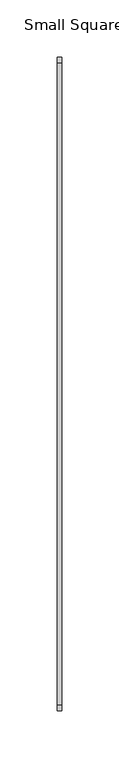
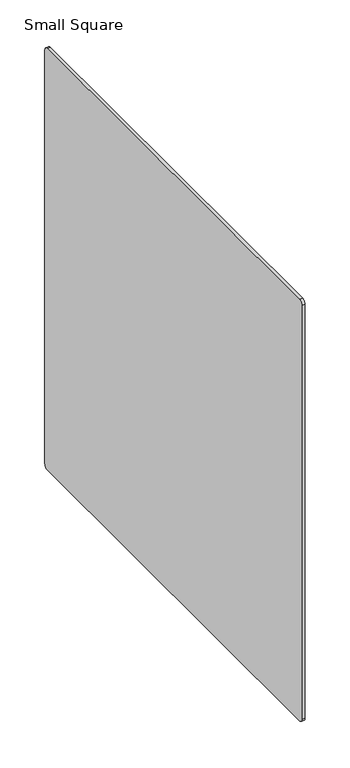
"""IFC4 building model written with IfcOpenShell, lengths in millimetres: furniture geometry, PolyVision_Accessory_Board_Motif : Small Square."""

from ifc_helpers import new_model, si_unit, point, frame, frame_2d, origin, place, context, project, spatial, polyline, circle_curve, trimmed, segment, composite_curve, outline, extrude, source, transform, mapped, element, save


def small_square_b37b69ca(model_context):
    return source(origin(), model_context, "Body", "SweptSolid", [
        extrude(outline(composite_curve([segment(polyline([(-570.0, 673.6), (-8.0, 673.6)]), True, "CONTINUOUS"), segment(trimmed(circle_curve(frame_2d((-8.0, 668.6)), 5.0), [point((-8.0, 673.6))], [point((-3.0, 668.6))], False, "CARTESIAN"), True, "CONTINUOUS"), segment(polyline([(-3.0, 668.6), (-3.0, 106.6)]), True, "CONTINUOUS"), segment(trimmed(circle_curve(frame_2d((-8.0, 106.6)), 5.0), [point((-3.0, 106.6))], [point((-8.0, 101.6))], False, "CARTESIAN"), True, "CONTINUOUS"), segment(polyline([(-8.0, 101.6), (-570.0, 101.6)]), True, "CONTINUOUS"), segment(trimmed(circle_curve(frame_2d((-570.0, 106.6)), 5.0), [point((-570.0, 101.6))], [point((-575.0, 106.6))], False, "CARTESIAN"), True, "CONTINUOUS"), segment(polyline([(-575.0, 106.6), (-575.0, 668.6)]), True, "CONTINUOUS"), segment(trimmed(circle_curve(frame_2d((-570.0, 668.6)), 5.0), [point((-575.0, 668.6))], [point((-570.0, 673.6))], False, "CARTESIAN"), True, "CONTINUOUS")], self_intersect=False)), frame((-4.0, 0.0, 0.0), z_axis=(1.0, 0.0, 0.0), x_axis=(0.0, 1.0, 0.0)), (0.0, 0.0, 1.0), 4.0),
    ])


if __name__ == "__main__":
    model = new_model("IFC4")
    model_context = context("Model", 3, world=origin())
    ifc_project = project(units=[si_unit("LENGTHUNIT", "METRE", prefix="MILLI")], contexts=[model_context])
    site = spatial("IfcSite", under=ifc_project)
    building = spatial("IfcBuilding", under=site)
    placement = place(None, origin())
    small_square_shape = small_square_b37b69ca(model_context)
    element("IfcFurniture", 1, ObjectType="PolyVision_Accessory_Board_Motif : Small Square", at=placement, inside=building, context=model_context, shape_type="MappedRepresentation", body=[
        mapped(small_square_shape, transform((0.0, 0.0, 0.0), x_axis=(1.0, 0.0, 0.0), y_axis=(0.0, 1.0, 0.0), z_axis=(0.0, 0.0, 1.0))),
    ])
    save(model, "model.ifc")
